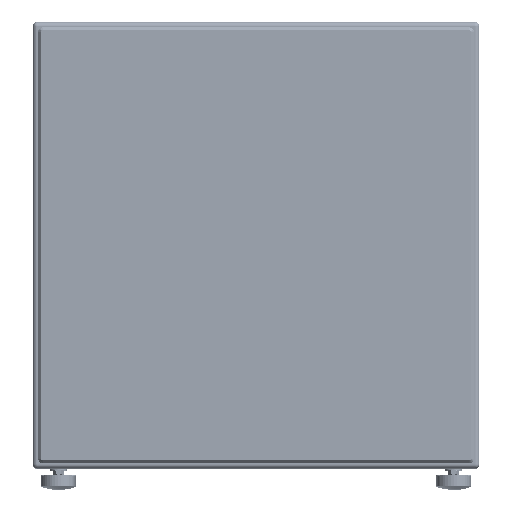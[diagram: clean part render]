
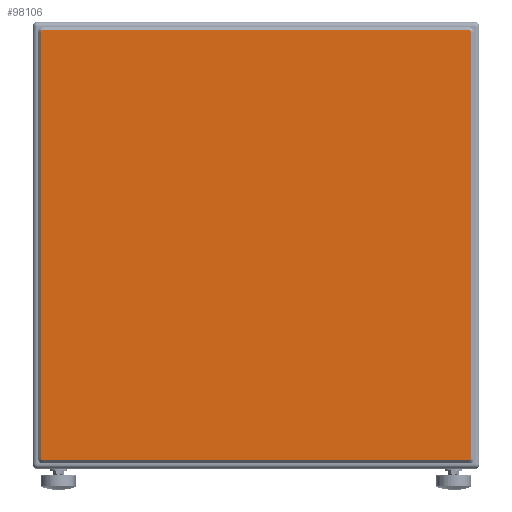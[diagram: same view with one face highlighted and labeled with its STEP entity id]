
A CAD part, top view. The second image highlights one B-rep face of the part: STEP entity #98106.
In plain terms, the highlighted planar face has unit normal (0, 0, 1).
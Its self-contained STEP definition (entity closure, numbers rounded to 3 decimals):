
#5186=PLANE('',#108191);
#14119=FACE_OUTER_BOUND('',#20563,.T.);
#20563=EDGE_LOOP('',(#91444,#91445,#91446,#91447,#91448,#91449,#91450,#91451));
#24489=B_SPLINE_CURVE_WITH_KNOTS('',3,(#413735,#413736,#413737,#413738,
#413739,#413740,#413741),.UNSPECIFIED.,.F.,.F.,(4,1,1,1,4),(0.,0.045,
0.135,0.225,0.315),.UNSPECIFIED.);
#24491=B_SPLINE_CURVE_WITH_KNOTS('',3,(#413828,#413829,#413830,#413831,
#413832,#413833,#413834),.UNSPECIFIED.,.F.,.F.,(4,1,1,1,4),(0.,0.045,
0.135,0.225,0.315),.UNSPECIFIED.);
#24493=B_SPLINE_CURVE_WITH_KNOTS('',3,(#413899,#413900,#413901,#413902,
#413903,#413904,#413905),.UNSPECIFIED.,.F.,.F.,(4,1,1,1,4),(0.,0.09,
0.18,0.27,0.315),.UNSPECIFIED.);
#29328=LINE('',#413773,#34201);
#29344=LINE('',#413864,#34217);
#29346=LINE('',#413867,#34219);
#29350=LINE('',#413928,#34223);
#34201=VECTOR('',#132732,1000.);
#34217=VECTOR('',#132764,1000.);
#34219=VECTOR('',#132768,1000.);
#34223=VECTOR('',#132778,1000.);
#38727=CIRCLE('',#108192,2.);
#47625=VERTEX_POINT('',#413733);
#47626=VERTEX_POINT('',#413734);
#47632=VERTEX_POINT('',#413771);
#47643=VERTEX_POINT('',#413826);
#47644=VERTEX_POINT('',#413827);
#47648=VERTEX_POINT('',#413863);
#47649=VERTEX_POINT('',#413898);
#47651=VERTEX_POINT('',#413927);
#62221=EDGE_CURVE('',#47625,#47626,#24489,.T.);
#62230=EDGE_CURVE('',#47625,#47632,#29328,.T.);
#62243=EDGE_CURVE('',#47643,#47644,#24491,.T.);
#62251=EDGE_CURVE('',#47648,#47644,#29344,.T.);
#62253=EDGE_CURVE('',#47643,#47626,#29346,.T.);
#62255=EDGE_CURVE('',#47649,#47632,#24493,.T.);
#62259=EDGE_CURVE('',#47649,#47651,#29350,.T.);
#62260=EDGE_CURVE('',#47648,#47651,#38727,.T.);
#91444=ORIENTED_EDGE('',*,*,#62221,.F.);
#91445=ORIENTED_EDGE('',*,*,#62230,.T.);
#91446=ORIENTED_EDGE('',*,*,#62255,.F.);
#91447=ORIENTED_EDGE('',*,*,#62259,.T.);
#91448=ORIENTED_EDGE('',*,*,#62260,.F.);
#91449=ORIENTED_EDGE('',*,*,#62251,.T.);
#91450=ORIENTED_EDGE('',*,*,#62243,.F.);
#91451=ORIENTED_EDGE('',*,*,#62253,.T.);
#98106=ADVANCED_FACE('',(#14119),#5186,.T.);
#108191=AXIS2_PLACEMENT_3D('',#413926,#132776,#132777);
#108192=AXIS2_PLACEMENT_3D('',#413929,#132779,#132780);
#132732=DIRECTION('',(0.,-1.,0.));
#132764=DIRECTION('',(0.,1.,0.));
#132768=DIRECTION('',(-1.,0.,0.));
#132776=DIRECTION('center_axis',(0.,0.,1.));
#132777=DIRECTION('ref_axis',(1.,0.,0.));
#132778=DIRECTION('',(1.,0.,0.));
#132779=DIRECTION('center_axis',(0.,0.,-1.));
#132780=DIRECTION('ref_axis',(0.,-1.,0.));
#413733=CARTESIAN_POINT('',(-293.5,481.5,130.));
#413734=CARTESIAN_POINT('',(-291.5,483.5,130.));
#413735=CARTESIAN_POINT('Ctrl Pts',(-293.5,481.5,130.));
#413736=CARTESIAN_POINT('Ctrl Pts',(-293.5,481.635,
130.));
#413737=CARTESIAN_POINT('Ctrl Pts',(-293.461,482.055,
130.));
#413738=CARTESIAN_POINT('Ctrl Pts',(-293.137,482.782,
130.));
#413739=CARTESIAN_POINT('Ctrl Pts',(-292.36,483.388,
130.));
#413740=CARTESIAN_POINT('Ctrl Pts',(-291.769,483.5,
130.));
#413741=CARTESIAN_POINT('Ctrl Pts',(-291.5,483.5,130.));
#413771=CARTESIAN_POINT('',(-293.5,-101.5,130.));
#413773=CARTESIAN_POINT('',(-293.5,-156.5,130.));
#413826=CARTESIAN_POINT('',(291.5,483.5,130.));
#413827=CARTESIAN_POINT('',(293.5,481.5,130.));
#413828=CARTESIAN_POINT('Ctrl Pts',(291.5,483.5,130.));
#413829=CARTESIAN_POINT('Ctrl Pts',(291.635,483.5,130.));
#413830=CARTESIAN_POINT('Ctrl Pts',(292.055,483.461,130.));
#413831=CARTESIAN_POINT('Ctrl Pts',(292.782,483.137,130.));
#413832=CARTESIAN_POINT('Ctrl Pts',(293.388,482.36,130.));
#413833=CARTESIAN_POINT('Ctrl Pts',(293.5,481.769,130.));
#413834=CARTESIAN_POINT('Ctrl Pts',(293.5,481.5,130.));
#413863=CARTESIAN_POINT('',(293.5,-101.5,130.));
#413864=CARTESIAN_POINT('',(293.5,536.5,130.));
#413867=CARTESIAN_POINT('',(-286.5,483.5,130.));
#413898=CARTESIAN_POINT('',(-291.5,-103.5,130.));
#413899=CARTESIAN_POINT('Ctrl Pts',(-291.5,-103.5,130.));
#413900=CARTESIAN_POINT('Ctrl Pts',(-291.769,-103.5,
130.));
#413901=CARTESIAN_POINT('Ctrl Pts',(-292.36,-103.388,
130.));
#413902=CARTESIAN_POINT('Ctrl Pts',(-293.137,-102.782,
130.));
#413903=CARTESIAN_POINT('Ctrl Pts',(-293.461,-102.055,
130.));
#413904=CARTESIAN_POINT('Ctrl Pts',(-293.5,-101.635,
130.));
#413905=CARTESIAN_POINT('Ctrl Pts',(-293.5,-101.5,130.));
#413926=CARTESIAN_POINT('Origin',(286.5,-156.5,130.));
#413927=CARTESIAN_POINT('',(291.5,-103.5,130.));
#413928=CARTESIAN_POINT('',(286.5,-103.5,130.));
#413929=CARTESIAN_POINT('Origin',(291.5,-101.5,130.));
